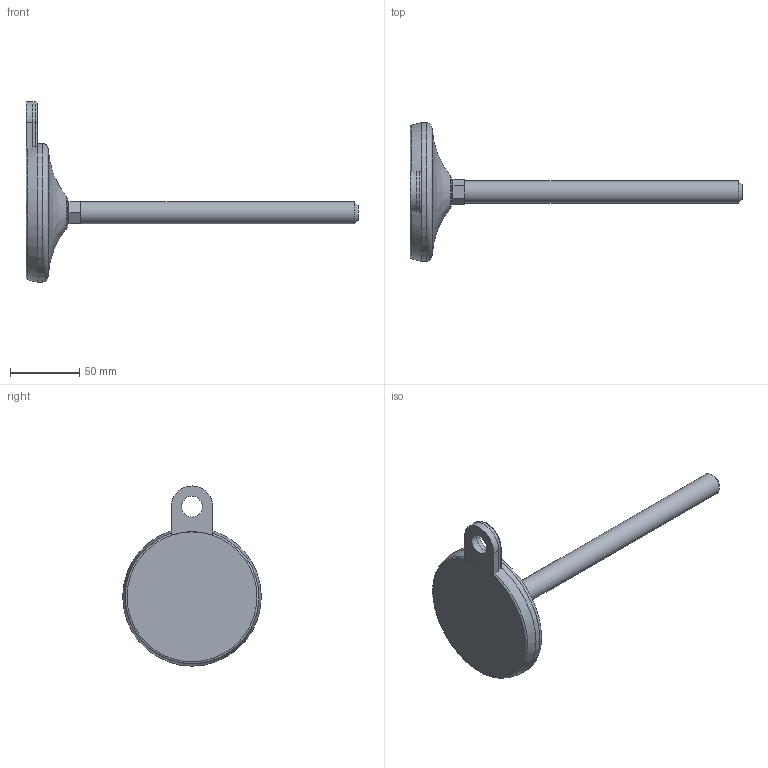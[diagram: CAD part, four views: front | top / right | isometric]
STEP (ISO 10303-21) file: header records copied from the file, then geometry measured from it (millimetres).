
FILE_DESCRIPTION(('STEP AP203'),'2;1');
FILE_NAME('26100-F.stp','2018-06-18T09:47:02',(''),(''),'2014.1.117','THINKDESIGN','');
FILE_SCHEMA(('CONFIG_CONTROL_DESIGN'));
Length unit declared in the file: millimetre
Bounding box: 239.5 x 100 x 130 mm (x, y, z)
Volume: 197699.5 mm3; surface area: 52721.2 mm2
Topology: 7 solids, 7 shells, 55 faces, 125 edges, 84 vertices
Faces by surface type: plane 26, cylinder 15, bspline 14
Full cylindrical faces by diameter (mm): 15 x3, 16 x1, 100 x1
Entity records: 2708 total; most frequent: CARTESIAN_POINT 1373, DIRECTION 251, ORIENTED_EDGE 250, EDGE_CURVE 125, AXIS2_PLACEMENT_3D 93, VERTEX_POINT 84, VECTOR 65, LINE 65
